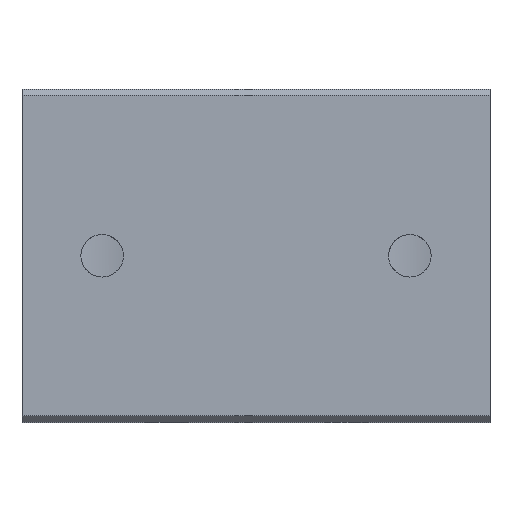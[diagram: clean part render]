
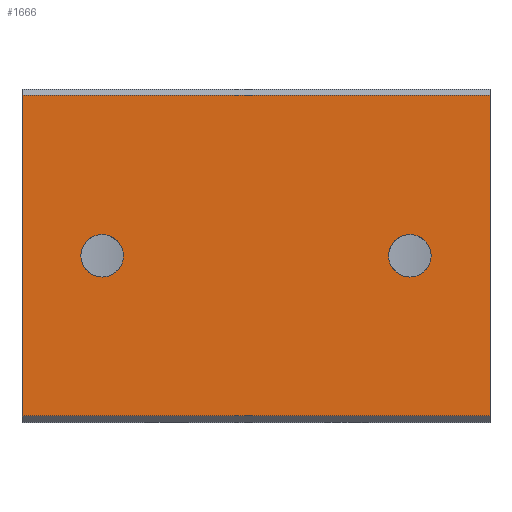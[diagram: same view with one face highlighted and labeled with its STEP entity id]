
A CAD part, top view. The second image highlights one B-rep face of the part: STEP entity #1666.
In plain terms, the highlighted planar face has unit normal (0, 0, 1).
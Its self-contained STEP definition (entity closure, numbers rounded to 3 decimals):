
#1514=CARTESIAN_POINT('',(73.0,-25.,35.));
#1515=VERTEX_POINT('',#1514);
#1522=CARTESIAN_POINT('',(0.0,-25.,35.));
#1523=VERTEX_POINT('',#1522);
#1524=CARTESIAN_POINT('',(73.0,-25.,35.));
#1525=DIRECTION('',(-1.0,0.0,0.0));
#1526=VECTOR('',#1525,73.0);
#1527=LINE('',#1524,#1526);
#1528=EDGE_CURVE('',#1515,#1523,#1527,.T.);
#1553=CARTESIAN_POINT('',(0.0,25.0,35.));
#1554=VERTEX_POINT('',#1553);
#1555=CARTESIAN_POINT('',(0.0,-25.,35.));
#1556=DIRECTION('',(0.0,1.0,0.0));
#1557=VECTOR('',#1556,50.0);
#1558=LINE('',#1555,#1557);
#1559=EDGE_CURVE('',#1523,#1554,#1558,.T.);
#1621=CARTESIAN_POINT('',(0.0,-26.,35.));
#1622=DIRECTION('',(0.0,0.0,1.0));
#1623=DIRECTION('',(1.0,0.0,0.0));
#1624=AXIS2_PLACEMENT_3D('',#1621,#1622,#1623);
#1625=PLANE('',#1624);
#1626=ORIENTED_EDGE('',*,*,#1528,.F.);
#1627=CARTESIAN_POINT('',(73.0,25.0,35.));
#1628=VERTEX_POINT('',#1627);
#1629=CARTESIAN_POINT('',(73.0,-25.,35.));
#1630=DIRECTION('',(0.0,1.0,0.0));
#1631=VECTOR('',#1630,50.0);
#1632=LINE('',#1629,#1631);
#1633=EDGE_CURVE('',#1515,#1628,#1632,.T.);
#1634=ORIENTED_EDGE('',*,*,#1633,.T.);
#1635=CARTESIAN_POINT('',(0.0,25.0,35.));
#1636=DIRECTION('',(1.0,0.0,0.0));
#1637=VECTOR('',#1636,73.0);
#1638=LINE('',#1635,#1637);
#1639=EDGE_CURVE('',#1554,#1628,#1638,.T.);
#1640=ORIENTED_EDGE('',*,*,#1639,.F.);
#1641=ORIENTED_EDGE('',*,*,#1559,.F.);
#1642=EDGE_LOOP('',(#1626,#1634,#1640,#1641));
#1643=FACE_OUTER_BOUND('',#1642,.T.);
#1644=CARTESIAN_POINT('',(15.823,0.0,35.0));
#1645=VERTEX_POINT('',#1644);
#1646=CARTESIAN_POINT('',(12.5,0.0,35.0));
#1647=DIRECTION('',(0.0,0.0,-1.0));
#1648=DIRECTION('',(1.0,0.0,0.0));
#1649=AXIS2_PLACEMENT_3D('',#1646,#1647,#1648);
#1650=CIRCLE('',#1649,3.324);
#1651=EDGE_CURVE('',#1645,#1645,#1650,.T.);
#1652=ORIENTED_EDGE('',*,*,#1651,.T.);
#1653=EDGE_LOOP('',(#1652));
#1654=FACE_BOUND('',#1653,.T.);
#1655=CARTESIAN_POINT('',(63.824,0.,35.0));
#1656=VERTEX_POINT('',#1655);
#1657=CARTESIAN_POINT('',(60.5,0.,35.0));
#1658=DIRECTION('',(0.0,0.0,-1.0));
#1659=DIRECTION('',(1.0,0.0,0.0));
#1660=AXIS2_PLACEMENT_3D('',#1657,#1658,#1659);
#1661=CIRCLE('',#1660,3.324);
#1662=EDGE_CURVE('',#1656,#1656,#1661,.T.);
#1663=ORIENTED_EDGE('',*,*,#1662,.T.);
#1664=EDGE_LOOP('',(#1663));
#1665=FACE_BOUND('',#1664,.T.);
#1666=ADVANCED_FACE('',(#1643,#1654,#1665),#1625,.T.);
